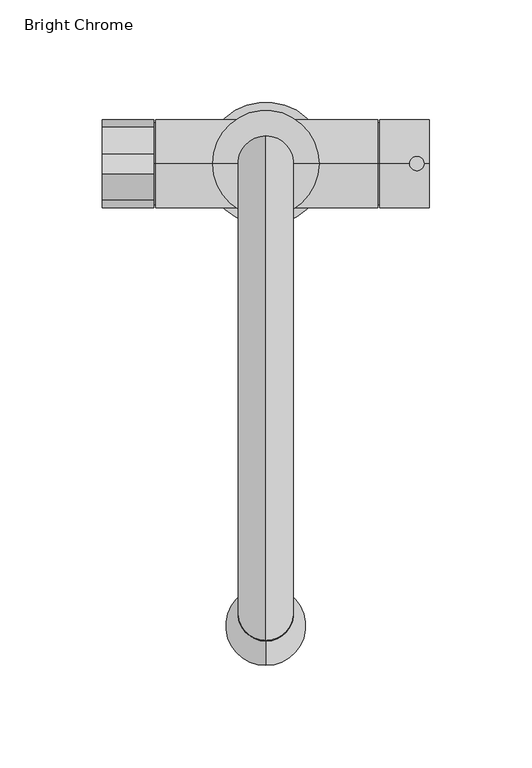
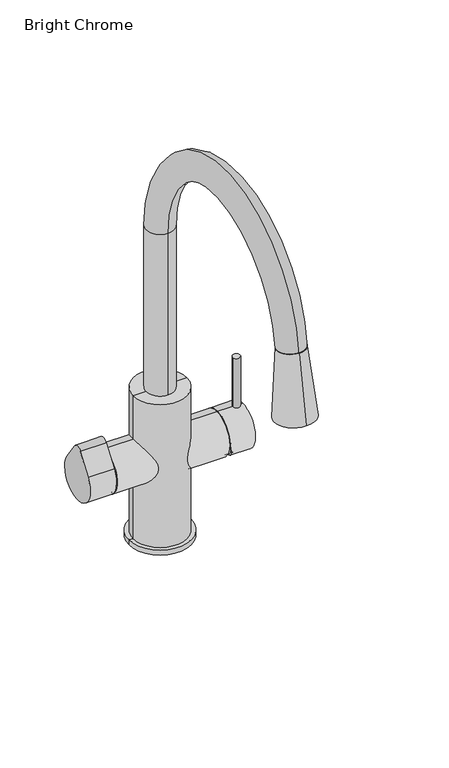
"""IFC4 building model written with IfcOpenShell, lengths in millimetres: flow terminal geometry, z_PlumFixt_Zenith_Celsius All-In-One : Bright Chrome."""

from ifc_helpers import new_model, si_unit, point, frame, frame_2d, origin, place, context, project, spatial, polyline, circle_curve, ellipse_curve, trimmed, segment, composite_curve, outline, extrude, source, transform, mapped, element, save
from ifc_brep_helpers import plane_surface, cylinder_surface, revolved_surface, advanced_brep


def bright_chrome_d1e259f6(model_context):
    return source(origin(), model_context, "Body", "SolidModel", [
        extrude(outline(composite_curve([segment(trimmed(circle_curve(frame_2d((-6.35, 76.5)), 6.35), [point((0.0, 76.5))], [point((-12.7, 76.5))], False, "CARTESIAN"), True, "CONTINUOUS"), segment(trimmed(circle_curve(frame_2d((-6.35, 76.5)), 6.35), [point((-12.7, 76.5))], [point((0.0, 76.5))], False, "CARTESIAN"), True, "CONTINUOUS")], self_intersect=False)), frame((0.0, 0.0, -1.0), z_axis=(0.0, 0.0, 1.0), x_axis=(1.0, 0.0, 0.0)), (0.0, 0.0, 1.0), 1.0),
        extrude(outline(composite_curve([segment(trimmed(circle_curve(frame_2d((8.35, 76.5)), 6.35), [point((14.7, 76.5))], [point((2.0, 76.5))], False, "CARTESIAN"), True, "CONTINUOUS"), segment(trimmed(circle_curve(frame_2d((8.35, 76.5)), 6.35), [point((2.0, 76.5))], [point((14.7, 76.5))], False, "CARTESIAN"), True, "CONTINUOUS")], self_intersect=False)), frame((0.0, 0.0, -1.0), z_axis=(0.0, 0.0, 1.0), x_axis=(1.0, 0.0, 0.0)), (0.0, 0.0, 1.0), 1.0),
        extrude(outline(composite_curve([segment(trimmed(circle_curve(frame_2d((76.5, 85.0)), 21.5), [point((94.230447, 97.1606435))], [point((58.769553, 97.1606435))], False, "CARTESIAN"), True, "CONTINUOUS"), segment(polyline([(58.769553, 97.1606435), (71.5867345, 115.8483352)]), True, "CONTINUOUS"), segment(trimmed(circle_curve(frame_2d((76.5, 112.4785121)), 5.9578424), [point((71.5867345, 115.8483352))], [point((81.4132655, 115.8483352))], False, "CARTESIAN"), True, "CONTINUOUS"), segment(polyline([(81.4132655, 115.8483352), (94.230447, 97.1606435)]), True, "CONTINUOUS")], self_intersect=False)), frame((-78.75, 0.0, 0.0), z_axis=(1.0, 0.0, 0.0), x_axis=(0.0, 1.0, 0.0)), (0.0, 0.0, 1.0), 25.0),
        extrude(outline(composite_curve([segment(trimmed(circle_curve(frame_2d((74.7555899, 76.5)), 3.4944101), [point((78.25, 76.5))], [point((71.2611797, 76.5))], False, "CARTESIAN"), True, "CONTINUOUS"), segment(trimmed(circle_curve(frame_2d((74.7555899, 76.5)), 3.4944101), [point((71.2611797, 76.5))], [point((78.25, 76.5))], False, "CARTESIAN"), True, "CONTINUOUS")], self_intersect=False)), frame((0.0, 0.0, 101.0), z_axis=(0.0, 0.0, 1.0), x_axis=(1.0, 0.0, 0.0)), (0.0, 0.0, 1.0), 55.5),
        advanced_brep(
        [(80.75, 76.5, 85.0), (80.75, 76.5, 106.5), (80.75, 76.5, 63.5), (56.75, 76.5, 106.5), (56.75, 55.0, 85.0), (62.5109076, 76.5, 63.5), (56.75, 98.0, 85.0), (56.75, 76.5, 85.0)],
        [
            (0, 1),
            (1, 2, circle_curve(frame((80.75, 76.5, 85.0), z_axis=(1.0, 0.0, 0.0), x_axis=(0.0, 0.0, 1.0)), 21.5)),
            (2, 0),
            (2, 1, circle_curve(frame((80.75, 76.5, 85.0), z_axis=(1.0, 0.0, 0.0), x_axis=(0.0, 0.0, 1.0)), 21.5)),
            (1, 3),
            (3, 4, circle_curve(frame((56.75, 76.5, 85.0), z_axis=(1.0, 0.0, 0.0), x_axis=(0.0, 0.0, 1.0)), 21.5)),
            (4, 5, ellipse_curve(frame((56.75, 76.5, 85.0), z_axis=(0.9659258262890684, 0.0, 0.25881904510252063), x_axis=(0.25881904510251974, 0.0, -0.9659258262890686)), 22.2584379, 21.5)),
            (5, 2),
            (5, 6, ellipse_curve(frame((56.75, 76.5, 85.0), z_axis=(0.9659258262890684, 0.0, 0.25881904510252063), x_axis=(0.25881904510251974, 0.0, -0.9659258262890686)), 22.2584379, 21.5)),
            (6, 3, circle_curve(frame((56.75, 76.5, 85.0), z_axis=(1.0, 0.0, 0.0), x_axis=(0.0, 0.0, 1.0)), 21.5)),
            (3, 7),
            (7, 4),
            (6, 7),
        ],
        [
            plane_surface(frame((80.75, 76.5, 85.0), z_axis=(1.0, 0.0, 0.0), x_axis=(0.0, 0.0, 1.0))),
            cylinder_surface(frame((80.75, 76.5, 85.0), z_axis=(1.0, 0.0, 0.0), x_axis=(0.0, 0.0, 1.0)), 21.5),
            plane_surface(frame((56.75, 76.5, 85.0), z_axis=(-1.0, 0.0, 0.0), x_axis=(0.0, 0.0, 1.0))),
            plane_surface(frame((56.75, 102.341034, 85.0), z_axis=(-0.9659258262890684, 0.0, -0.25881904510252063), x_axis=(0.0, -1.0, 0.0))),
        ],
        [
            (0, [[1, 2, 3]]),
            (0, [[-1, -3, 4]]),
            (1, [[-2, 5, 6, 7, 8]]),
            (1, [[-4, -8, 9, 10, -5]]),
            (2, [[11, 12, -6]]),
            (2, [[-11, -10, 13]]),
            (3, [[-7, -12, -13, -9]]),
        ],
    ),
        advanced_brep(
        [(-53.75, 76.5, 64.9650907), (-53.75, 76.5, 105.0349093), (-53.75, 76.5, 85.0), (-52.7635486, 76.5, 64.9650907), (-52.7635486, 76.5, 105.0349093), (-52.7635486, 76.5, 63.5), (-52.7635486, 76.5, 106.5), (55.75, 76.5, 63.5), (55.75, 76.5, 106.5), (55.75, 76.5, 64.9650907), (55.75, 76.5, 105.0349093), (63.75, 76.5, 64.9650907), (63.75, 76.5, 105.0349093), (63.75, 76.5, 85.0)],
        [
            (0, 1, circle_curve(frame((-53.75, 76.5, 85.0), z_axis=(-1.0, 0.0, 0.0), x_axis=(0.0, 0.0, 1.0)), 20.0349093)),
            (1, 2),
            (2, 0),
            (1, 0, circle_curve(frame((-53.75, 76.5, 85.0), z_axis=(-1.0, 0.0, 0.0), x_axis=(0.0, 0.0, 1.0)), 20.0349093)),
            (3, 4, circle_curve(frame((-52.7635486, 76.5, 85.0), z_axis=(-1.0, 0.0, 0.0), x_axis=(0.0, 0.0, 1.0)), 20.0349093)),
            (4, 1),
            (0, 3),
            (4, 3, circle_curve(frame((-52.7635486, 76.5, 85.0), z_axis=(-1.0, 0.0, 0.0), x_axis=(0.0, 0.0, 1.0)), 20.0349093)),
            (5, 6, circle_curve(frame((-52.7635486, 76.5, 85.0), z_axis=(-1.0, 0.0, 0.0), x_axis=(0.0, 0.0, 1.0)), 21.5)),
            (6, 4),
            (3, 5),
            (6, 5, circle_curve(frame((-52.7635486, 76.5, 85.0), z_axis=(-1.0, 0.0, 0.0), x_axis=(0.0, 0.0, 1.0)), 21.5)),
            (7, 8, circle_curve(frame((55.75, 76.5, 85.0), z_axis=(-1.0, 0.0, 0.0), x_axis=(0.0, 0.0, 1.0)), 21.5)),
            (8, 6),
            (5, 7),
            (8, 7, circle_curve(frame((55.75, 76.5, 85.0), z_axis=(-1.0, 0.0, 0.0), x_axis=(0.0, 0.0, 1.0)), 21.5)),
            (9, 10, circle_curve(frame((55.75, 76.5, 85.0), z_axis=(-1.0, 0.0, 0.0), x_axis=(0.0, 0.0, 1.0)), 20.0349093)),
            (10, 8),
            (7, 9),
            (10, 9, circle_curve(frame((55.75, 76.5, 85.0), z_axis=(-1.0, 0.0, 0.0), x_axis=(0.0, 0.0, 1.0)), 20.0349093)),
            (11, 12, circle_curve(frame((63.75, 76.5, 85.0), z_axis=(-1.0, 0.0, 0.0), x_axis=(0.0, 0.0, 1.0)), 20.0349093)),
            (12, 10),
            (9, 11),
            (12, 11, circle_curve(frame((63.75, 76.5, 85.0), z_axis=(-1.0, 0.0, 0.0), x_axis=(0.0, 0.0, 1.0)), 20.0349093)),
            (13, 12),
            (11, 13),
        ],
        [
            plane_surface(frame((-53.75, 76.5, 85.0), z_axis=(-1.0, 0.0, 0.0), x_axis=(0.0, 0.0, 1.0))),
            cylinder_surface(frame((60.75, 76.5, 85.0), z_axis=(1.0, 0.0, 0.0), x_axis=(0.0, 0.0, 1.0)), 20.0349093),
            plane_surface(frame((-52.7635486, 76.5, 85.0), z_axis=(-1.0, 0.0, 0.0), x_axis=(0.0, 0.0, 1.0))),
            cylinder_surface(frame((60.75, 76.5, 85.0), z_axis=(1.0, 0.0, 0.0), x_axis=(0.0, 0.0, 1.0)), 21.5),
            plane_surface(frame((55.75, 76.5, 85.0), z_axis=(1.0, 0.0, 0.0), x_axis=(0.0, 0.0, 1.0))),
            plane_surface(frame((63.75, 76.5, 85.0), z_axis=(1.0, 0.0, 0.0), x_axis=(0.0, 0.0, 1.0))),
        ],
        [
            (0, [[1, 2, 3]]),
            (0, [[4, -3, -2]]),
            (1, [[5, 6, -1, 7]]),
            (1, [[8, -7, -4, -6]]),
            (2, [[9, 10, -5, 11]]),
            (2, [[12, -11, -8, -10]]),
            (3, [[13, 14, -9, 15]]),
            (3, [[16, -15, -12, -14]]),
            (4, [[17, 18, -13, 19]]),
            (4, [[20, -19, -16, -18]]),
            (1, [[21, 22, -17, 23]]),
            (1, [[24, -23, -20, -22]]),
            (5, [[25, -21, 26]]),
            (5, [[-26, -24, -25]]),
        ],
    ),
        advanced_brep(
        [(1.0, -141.763522, 254.2812293), (1.0, -149.3942556, 254.948832), (1.0, -134.1327884, 253.6136266), (1.0, -133.8713211, 256.6022107), (1.0, -149.1327884, 257.9374161), (1.0, -141.5020548, 257.2698134)],
        [
            (0, 1),
            (1, 2, circle_curve(frame((1.0, -141.763522, 254.2812293), z_axis=(0.0, -0.08715574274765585, -0.9961946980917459), x_axis=(0.0, -0.9961946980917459, 0.08715574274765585)), 7.6598818)),
            (2, 0),
            (2, 1, circle_curve(frame((1.0, -141.763522, 254.2812293), z_axis=(0.0, -0.08715574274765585, -0.9961946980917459), x_axis=(0.0, -0.9961946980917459, 0.08715574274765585)), 7.6598818)),
            (3, 4, circle_curve(frame((1.0, -141.5020548, 257.2698134), z_axis=(0.0, 0.08715574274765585, 0.9961946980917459), x_axis=(0.0, -0.9961946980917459, 0.08715574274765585)), 7.6598818)),
            (4, 5),
            (5, 3),
            (4, 3, circle_curve(frame((1.0, -141.5020548, 257.2698134), z_axis=(0.0, 0.08715574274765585, 0.9961946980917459), x_axis=(0.0, -0.9961946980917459, 0.08715574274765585)), 7.6598818)),
            (1, 4),
            (3, 2),
        ],
        [
            plane_surface(frame((1.0, -141.763522, 254.2812293), z_axis=(0.0, -0.08715574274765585, -0.9961946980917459), x_axis=(0.0, -0.9961946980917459, 0.08715574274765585))),
            plane_surface(frame((1.0, -141.5020548, 257.2698134), z_axis=(0.0, 0.08715574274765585, 0.9961946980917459), x_axis=(0.0, -0.9961946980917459, 0.08715574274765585))),
            cylinder_surface(frame((1.0, -141.5020548, 257.2698134), z_axis=(0.0, -0.08715574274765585, -0.9961946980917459), x_axis=(0.0, -0.9961946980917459, 0.08715574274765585)), 7.6598818),
        ],
        [
            (0, [[1, 2, 3]]),
            (0, [[-3, 4, -1]]),
            (1, [[5, 6, 7]]),
            (1, [[8, -7, -6]]),
            (2, [[-2, 9, -5, 10]]),
            (2, [[-4, -10, -8, -9]]),
        ],
    ),
        advanced_brep(
        [(1.0, -129.7655767, 324.4105292), (1.0, -156.6628336, 326.7637342), (1.0, -143.2142052, 325.5871317), (1.0, -129.7655767, 256.2430046), (1.0, -168.5, 259.6318275), (1.0, -149.1327884, 257.9374161)],
        [
            (0, 1, circle_curve(frame((1.0, -143.2142052, 325.5871317), z_axis=(0.0, 0.08715574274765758, 0.9961946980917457), x_axis=(0.0, -0.9961946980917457, 0.08715574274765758)), 13.5)),
            (1, 2),
            (2, 0),
            (1, 0, circle_curve(frame((1.0, -143.2142052, 325.5871317), z_axis=(0.0, 0.08715574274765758, 0.9961946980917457), x_axis=(0.0, -0.9961946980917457, 0.08715574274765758)), 13.5)),
            (3, 4, circle_curve(frame((1.0, -149.1327884, 257.9374161), z_axis=(0.0, 0.08715574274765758, 0.9961946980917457), x_axis=(0.0, -0.9961946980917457, 0.08715574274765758)), 19.4411912)),
            (4, 1),
            (0, 3),
            (4, 3, circle_curve(frame((1.0, -149.1327884, 257.9374161), z_axis=(0.0, 0.08715574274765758, 0.9961946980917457), x_axis=(0.0, -0.9961946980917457, 0.08715574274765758)), 19.4411912)),
            (5, 4),
            (3, 5),
        ],
        [
            plane_surface(frame((1.0, -143.2142052, 325.5871317), z_axis=(0.0, 0.08715574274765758, 0.9961946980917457), x_axis=(0.0, -0.9961946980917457, 0.08715574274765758))),
            revolved_surface(polyline([(1.0, -156.6628336, 326.7637342), (1.0, -168.5, 259.6318275)]), (1.0, -143.2142052, 325.5871317), (0.0, -0.08715574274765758, -0.9961946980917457)),
            plane_surface(frame((1.0, -149.1327884, 257.9374161), z_axis=(0.0, -0.08715574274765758, -0.9961946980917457), x_axis=(0.0, -0.9961946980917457, 0.08715574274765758))),
        ],
        [
            (0, [[1, 2, 3]]),
            (0, [[4, -3, -2]]),
            (1, [[5, 6, -1, 7]]),
            (1, [[8, -7, -4, -6]]),
            (2, [[9, -5, 10]]),
            (2, [[-10, -8, -9]]),
        ],
    ),
        advanced_brep(
        [(1.0, 90.0, 151.0), (1.0, 63.0, 151.0), (1.0, 90.0, 316.0), (1.0, 63.0, 316.0), (1.0, -156.6791303, 324.8967326), (1.0, -129.74928, 322.9516979)],
        [
            (0, 1, circle_curve(frame((1.0, 76.5, 151.0), z_axis=(0.0, 0.0, -1.0), x_axis=(0.0, -1.0, 0.0)), 13.5)),
            (1, 0, circle_curve(frame((1.0, 76.5, 151.0), z_axis=(0.0, 0.0, -1.0), x_axis=(0.0, -1.0, 0.0)), 13.5)),
            (0, 2),
            (2, 3, circle_curve(frame((1.0, 76.5, 316.0), z_axis=(0.0, 0.0, -1.0), x_axis=(0.0, -1.0, 0.0)), 13.5)),
            (3, 1),
            (3, 2, circle_curve(frame((1.0, 76.5, 316.0), z_axis=(0.0, 0.0, -1.0), x_axis=(0.0, -1.0, 0.0)), 13.5)),
            (4, 5, circle_curve(frame((1.0, -143.2142052, 323.9242152), z_axis=(0.0, -0.07203832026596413, -0.9974018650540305), x_axis=(0.0, 0.9974018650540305, -0.07203832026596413)), 13.5)),
            (5, 4, circle_curve(frame((1.0, -143.2142052, 323.9242152), z_axis=(0.0, -0.07203832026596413, -0.9974018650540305), x_axis=(0.0, 0.9974018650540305, -0.07203832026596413)), 13.5)),
            (5, 3, circle_curve(frame((1.0, -33.5, 316.0), z_axis=(-1.0, 0.0, 0.0), x_axis=(0.0, 1.0, 0.0)), 96.5)),
            (2, 4, circle_curve(frame((1.0, -33.5, 316.0), z_axis=(1.0, 0.0, 0.0), x_axis=(0.0, 1.0, 0.0)), 123.5)),
        ],
        [
            plane_surface(frame((1.0, 76.5, 151.0), z_axis=(0.0, 0.0, -1.0), x_axis=(1.0, 0.0, 0.0))),
            cylinder_surface(frame((1.0, 76.5, 151.0), z_axis=(0.0, 0.0, -1.0), x_axis=(0.0, -1.0, 0.0)), 13.5),
            plane_surface(frame((1.0, -143.2142052, 323.9242152), z_axis=(0.0, -0.07203832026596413, -0.9974018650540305), x_axis=(1.0, 0.0, 0.0))),
            revolved_surface(trimmed(ellipse_curve(frame((1.0, 76.5, 316.0), z_axis=(0.0, 0.0, -1.0), x_axis=(0.0, -1.0, 0.0)), 13.5, 13.5), [point((1.0, 90.0, 316.0))], [point((1.0, 63.0, 316.0))], True, "CARTESIAN"), (1.0, -33.5, 316.0), (1.0, 0.0, 0.0)),
            revolved_surface(trimmed(ellipse_curve(frame((1.0, 76.5, 316.0), z_axis=(0.0, 0.0, -1.0), x_axis=(0.0, -1.0, 0.0)), 13.5, 13.5), [point((1.0, 63.0, 316.0))], [point((1.0, 90.0, 316.0))], True, "CARTESIAN"), (1.0, -33.5, 316.0), (1.0, 0.0, 0.0)),
        ],
        [
            (0, [[1, 2]]),
            (1, [[-1, 3, 4, 5]]),
            (1, [[-2, -5, 6, -3]]),
            (2, [[7, 8]]),
            (3, [[9, -4, 10, -8]]),
            (4, [[-10, -6, -9, -7]]),
        ],
    ),
        advanced_brep(
        [(1.0, 76.5, 0.0), (31.0, 76.5, 0.0), (-29.0, 76.5, 0.0), (-25.0, 76.5, 151.0), (27.0, 76.5, 151.0), (1.0, 76.5, 151.0), (-25.0, 76.5, 5.0), (27.0, 76.5, 5.0), (-29.0, 76.5, 5.0), (31.0, 76.5, 5.0)],
        [
            (0, 1),
            (1, 2, circle_curve(frame((1.0, 76.5, 0.0), z_axis=(0.0, 0.0, -1.0), x_axis=(1.0, 0.0, 0.0)), 30.0)),
            (2, 0),
            (2, 1, circle_curve(frame((1.0, 76.5, 0.0), z_axis=(0.0, 0.0, -1.0), x_axis=(1.0, 0.0, 0.0)), 30.0)),
            (3, 4, circle_curve(frame((1.0, 76.5, 151.0), z_axis=(0.0, 0.0, 1.0), x_axis=(1.0, 0.0, 0.0)), 26.0)),
            (4, 5),
            (5, 3),
            (4, 3, circle_curve(frame((1.0, 76.5, 151.0), z_axis=(0.0, 0.0, 1.0), x_axis=(1.0, 0.0, 0.0)), 26.0)),
            (6, 7, circle_curve(frame((1.0, 76.5, 5.0), z_axis=(0.0, 0.0, 1.0), x_axis=(1.0, 0.0, 0.0)), 26.0)),
            (7, 4),
            (3, 6),
            (7, 6, circle_curve(frame((1.0, 76.5, 5.0), z_axis=(0.0, 0.0, 1.0), x_axis=(1.0, 0.0, 0.0)), 26.0)),
            (8, 9, circle_curve(frame((1.0, 76.5, 5.0), z_axis=(0.0, 0.0, 1.0), x_axis=(1.0, 0.0, 0.0)), 30.0)),
            (9, 7),
            (6, 8),
            (9, 8, circle_curve(frame((1.0, 76.5, 5.0), z_axis=(0.0, 0.0, 1.0), x_axis=(1.0, 0.0, 0.0)), 30.0)),
            (1, 9),
            (8, 2),
        ],
        [
            plane_surface(frame((1.0, 76.5, 0.0), z_axis=(0.0, 0.0, -1.0), x_axis=(1.0, 0.0, 0.0))),
            plane_surface(frame((1.0, 76.5, 151.0), z_axis=(0.0, 0.0, 1.0), x_axis=(1.0, 0.0, 0.0))),
            cylinder_surface(frame((1.0, 76.5, 151.0), z_axis=(0.0, 0.0, -1.0), x_axis=(1.0, 0.0, 0.0)), 26.0),
            plane_surface(frame((1.0, 76.5, 5.0), z_axis=(0.0, 0.0, 1.0), x_axis=(1.0, 0.0, 0.0))),
            cylinder_surface(frame((1.0, 76.5, 151.0), z_axis=(0.0, 0.0, -1.0), x_axis=(1.0, 0.0, 0.0)), 30.0),
        ],
        [
            (0, [[1, 2, 3]]),
            (0, [[-3, 4, -1]]),
            (1, [[5, 6, 7]]),
            (1, [[8, -7, -6]]),
            (2, [[9, 10, -5, 11]]),
            (2, [[12, -11, -8, -10]]),
            (3, [[13, 14, -9, 15]]),
            (3, [[16, -15, -12, -14]]),
            (4, [[-2, 17, -13, 18]]),
            (4, [[-4, -18, -16, -17]]),
        ],
    ),
    ])


if __name__ == "__main__":
    model = new_model("IFC4")
    model_context = context("Model", 3, world=origin())
    ifc_project = project(units=[si_unit("LENGTHUNIT", "METRE", prefix="MILLI")], contexts=[model_context])
    site = spatial("IfcSite", under=ifc_project)
    building = spatial("IfcBuilding", under=site)
    placement = place(None, origin())
    bright_chrome_shape = bright_chrome_d1e259f6(model_context)
    element("IfcFlowTerminal", 1, ObjectType="z_PlumFixt_Zenith_Celsius All-In-One : Bright Chrome", at=placement, inside=building, context=model_context, shape_type="MappedRepresentation", body=[
        mapped(bright_chrome_shape, transform((0.0, 0.0, 0.0), x_axis=(1.0, 0.0, 0.0), y_axis=(0.0, 1.0, 0.0), z_axis=(0.0, 0.0, 1.0))),
    ])
    save(model, "model.ifc")
